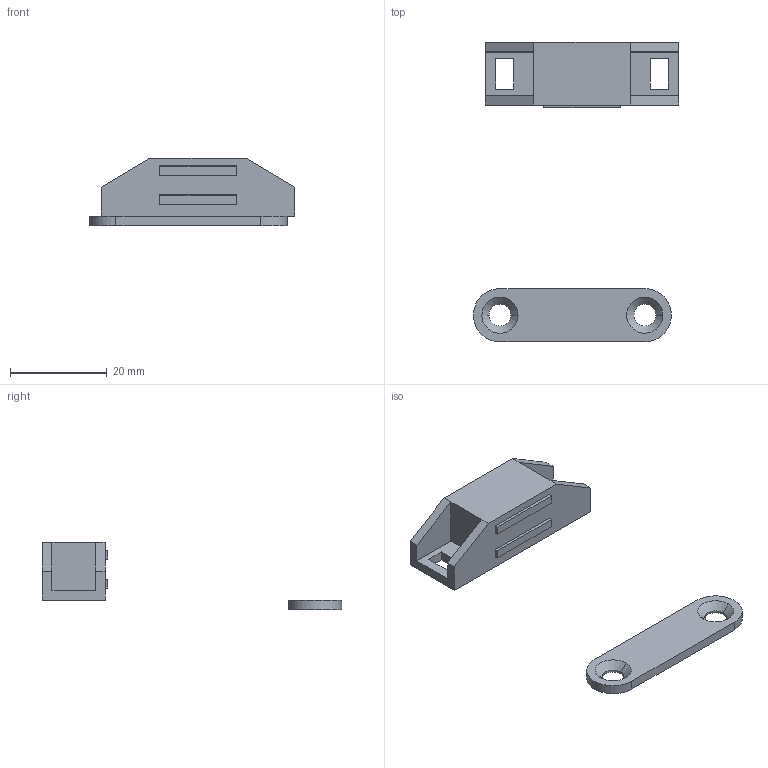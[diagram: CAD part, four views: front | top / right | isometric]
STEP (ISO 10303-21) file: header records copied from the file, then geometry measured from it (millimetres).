
FILE_DESCRIPTION((''),'2;1');
FILE_NAME('6470.08.stp','2023-10-12T12:09:35',(''),(''),'Mechanical Desktop 2006','Mechanical Desktop 2006',', , ');
FILE_SCHEMA(('CONFIG_CONTROL_DESIGN'));
Length unit declared in the file: millimetre
Products named in the file (4): 6470.08; 1; 2; 1A
Assembly tree (2 placements, depth 2):
  6470.08
    1
    2
  1A
Bounding box: 42.5 x 62 x 14 mm (x, y, z)
Volume: 4865.8 mm3; surface area: 3755.6 mm2
Topology: 2 solids, 2 shells, 60 faces, 148 edges, 96 vertices
Faces by surface type: plane 50, cylinder 6, cone 4
Entity records: 2023 total; most frequent: CARTESIAN_POINT 309, ORIENTED_EDGE 296, DIRECTION 294, EDGE_CURVE 148, VECTOR 132, LINE 132, VERTEX_POINT 96, AXIS2_PLACEMENT_3D 81
